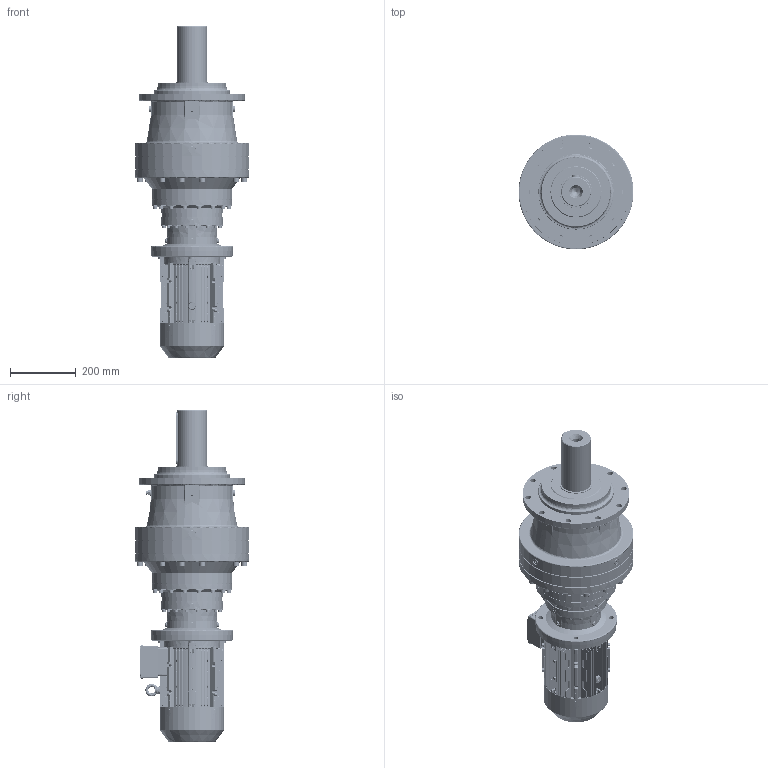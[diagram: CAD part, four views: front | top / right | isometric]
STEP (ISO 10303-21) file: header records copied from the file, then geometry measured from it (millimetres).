
FILE_DESCRIPTION (( 'STEP AP203' ), '1' );
FILE_NAME ('PVL_2303L-100L-4.STEP', '2019-05-10T10:12:38', ( '' ), ( '' ), 'SwSTEP 2.0', 'SolidWorks 2012', '' );
FILE_SCHEMA (( 'CONFIG_CONTROL_DESIGN' ));
Products named in the file (19): eyebolts gb_GB_FASTENER_SCREWS_FRS M8-N; IE3 100 Shaft; IE3 100 terminal box cover; IE3 100 terminal box base; FL7A_Varsayìlan; IE3 100 casing; IE3 100 B3 Shield; PNL_2303L_0_0_A10_B5_ML31A_FL7A_0_0_0_0_0_0_0_0_0_0_0_M1; ML31A_Varsayìlan; 11100B5_Varsayìlan; P23_Varsayìlan; EK2303L_Varsayìlan; MX3-100L_B5; PVL_2303L-100L-4; IE3 100 shaft cover; plain parallel keys_GB_CONNECTING_PIECE_KEYS_CSK 8X50; IE3 100 B5 flange; IE3 100 fan cover; IE3 100 fan
Assembly tree (19 placements, depth 3):
  PVL_2303L-100L-4
    PNL_2303L_0_0_A10_B5_ML31A_FL7A_0_0_0_0_0_0_0_0_0_0_0_M1
      P23_Varsayìlan
      11100B5_Varsayìlan
      ML31A_Varsayìlan
      EK2303L_Varsayìlan
      FL7A_Varsayìlan
    MX3-100L_B5
      IE3 100 casing
      IE3 100 B3 Shield
      IE3 100 Shaft
      eyebolts gb_GB_FASTENER_SCREWS_FRS M8-N
      IE3 100 terminal box base
      IE3 100 terminal box cover
      IE3 100 fan
      IE3 100 fan cover
      plain parallel keys_GB_CONNECTING_PIECE_KEYS_CSK 8X50
      IE3 100 shaft cover  x2
      IE3 100 B5 flange
Bounding box: 350 x 350 x 1012.11 mm (x, y, z)
Volume: 30724745.4 mm3; surface area: 2420063.1 mm2
Topology: 26 solids, 28 shells, 8408 faces, 21374 edges, 12961 vertices
Faces by surface type: plane 2634, cylinder 2260, bspline 2052, cone 1062, torus 308, sphere 92
Entity records: 330806 total; most frequent: CARTESIAN_POINT 141719, ORIENTED_EDGE 41854, DIRECTION 36039, EDGE_CURVE 20927, AXIS2_PLACEMENT_3D 13744, VERTEX_POINT 12853, EDGE_LOOP 8998, LINE 8551
